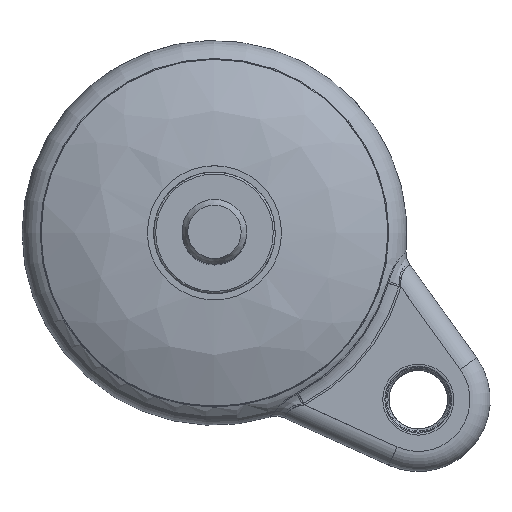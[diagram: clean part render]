
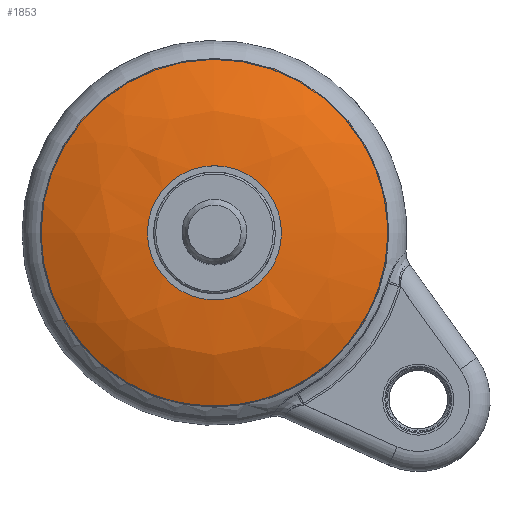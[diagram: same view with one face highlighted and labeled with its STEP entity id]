
A CAD part, top view. The second image highlights one B-rep face of the part: STEP entity #1853.
In plain terms, the highlighted free-form (B-spline) face has degree [2, 2] with [3, 9] control points.
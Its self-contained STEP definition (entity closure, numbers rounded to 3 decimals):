
#375=FACE_OUTER_BOUND('',#503,.T.);
#503=EDGE_LOOP('',(#1302,#1303,#1304,#1305));
#664=CIRCLE('',#2067,43.028);
#669=CIRCLE('',#2072,16.55);
#670=CIRCLE('',#2073,60.);
#826=VERTEX_POINT('',#3011);
#835=VERTEX_POINT('',#3105);
#1010=EDGE_CURVE('',#826,#826,#664,.T.);
#1020=EDGE_CURVE('',#835,#835,#669,.T.);
#1021=EDGE_CURVE('',#835,#826,#670,.T.);
#1302=ORIENTED_EDGE('',*,*,#1020,.T.);
#1303=ORIENTED_EDGE('',*,*,#1021,.T.);
#1304=ORIENTED_EDGE('',*,*,#1010,.F.);
#1305=ORIENTED_EDGE('',*,*,#1021,.F.);
#1847=(
BOUNDED_SURFACE()
B_SPLINE_SURFACE(2,2,((#3078,#3079,#3080,#3081,#3082,#3083,#3084,#3085,
#3086),(#3087,#3088,#3089,#3090,#3091,#3092,#3093,#3094,#3095),(#3096,#3097,
#3098,#3099,#3100,#3101,#3102,#3103,#3104)),.UNSPECIFIED.,.F.,.T.,.F.)
B_SPLINE_SURFACE_WITH_KNOTS((3,3),(3,2,2,2,3),(1.114,1.571),
(-3.142,-1.571,0.,1.571,3.142),
 .UNSPECIFIED.)
GEOMETRIC_REPRESENTATION_ITEM()
RATIONAL_B_SPLINE_SURFACE(((1.,0.707,1.,0.707,1.,
0.707,1.,0.707,1.),(0.974,0.689,
0.974,0.689,0.974,0.689,0.974,
0.689,0.974),(1.,0.707,1.,0.707,
1.,0.707,1.,0.707,1.)))
REPRESENTATION_ITEM('')
SURFACE()
);
#1853=ADVANCED_FACE('',(#375),#1847,.F.);
#2067=AXIS2_PLACEMENT_3D('',#3012,#2355,#2356);
#2072=AXIS2_PLACEMENT_3D('',#3106,#2365,#2366);
#2073=AXIS2_PLACEMENT_3D('',#3107,#2367,#2368);
#2355=DIRECTION('center_axis',(0.,0.,
-1.));
#2356=DIRECTION('ref_axis',(0.774,-0.633,0.));
#2365=DIRECTION('center_axis',(0.,0.,
-1.));
#2366=DIRECTION('ref_axis',(-0.774,0.633,0.));
#2367=DIRECTION('center_axis',(0.,-1.,0.));
#2368=DIRECTION('ref_axis',(-1.,0.,0.));
#3011=CARTESIAN_POINT('',(-43.028,0.,-8.158));
#3012=CARTESIAN_POINT('Origin',(0.,0.,
-8.158));
#3078=CARTESIAN_POINT('Ctrl Pts',(-43.028,0.,
-8.158));
#3079=CARTESIAN_POINT('Ctrl Pts',(-43.028,-43.028,-8.158));
#3080=CARTESIAN_POINT('Ctrl Pts',(0.,-43.028,
-8.158));
#3081=CARTESIAN_POINT('Ctrl Pts',(43.028,-43.028,-8.158));
#3082=CARTESIAN_POINT('Ctrl Pts',(43.028,0.,
-8.158));
#3083=CARTESIAN_POINT('Ctrl Pts',(43.028,43.028,-8.158));
#3084=CARTESIAN_POINT('Ctrl Pts',(0.,43.028,
-8.158));
#3085=CARTESIAN_POINT('Ctrl Pts',(-43.028,43.028,-8.158));
#3086=CARTESIAN_POINT('Ctrl Pts',(-43.028,0.,
-8.158));
#3087=CARTESIAN_POINT('Ctrl Pts',(-30.505,0.,
-2.));
#3088=CARTESIAN_POINT('Ctrl Pts',(-30.505,-30.505,-2.));
#3089=CARTESIAN_POINT('Ctrl Pts',(0.,-30.505,
-2.));
#3090=CARTESIAN_POINT('Ctrl Pts',(30.505,-30.505,-2.));
#3091=CARTESIAN_POINT('Ctrl Pts',(30.505,0.,
-2.));
#3092=CARTESIAN_POINT('Ctrl Pts',(30.505,30.505,-2.));
#3093=CARTESIAN_POINT('Ctrl Pts',(0.,30.505,
-2.));
#3094=CARTESIAN_POINT('Ctrl Pts',(-30.505,30.505,-2.));
#3095=CARTESIAN_POINT('Ctrl Pts',(-30.505,0.,
-2.));
#3096=CARTESIAN_POINT('Ctrl Pts',(-16.55,0.,
-2.));
#3097=CARTESIAN_POINT('Ctrl Pts',(-16.55,-16.55,-2.));
#3098=CARTESIAN_POINT('Ctrl Pts',(0.,-16.55,
-2.));
#3099=CARTESIAN_POINT('Ctrl Pts',(16.55,-16.55,-2.));
#3100=CARTESIAN_POINT('Ctrl Pts',(16.55,0.,
-2.));
#3101=CARTESIAN_POINT('Ctrl Pts',(16.55,16.55,-2.));
#3102=CARTESIAN_POINT('Ctrl Pts',(0.,16.55,-2.));
#3103=CARTESIAN_POINT('Ctrl Pts',(-16.55,16.55,-2.));
#3104=CARTESIAN_POINT('Ctrl Pts',(-16.55,0.,
-2.));
#3105=CARTESIAN_POINT('',(-16.55,0.,-2.));
#3106=CARTESIAN_POINT('Origin',(0.,0.,
-2.));
#3107=CARTESIAN_POINT('Origin',(-16.55,0.,-62.));
